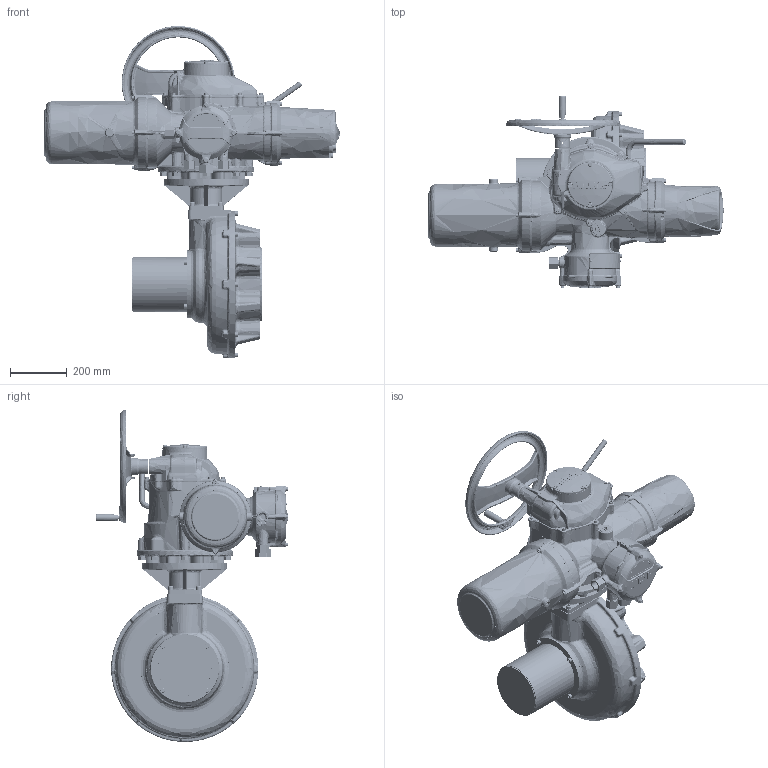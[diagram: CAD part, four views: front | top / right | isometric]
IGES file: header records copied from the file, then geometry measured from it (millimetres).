
Start section: C
Global section: file name: II5-91-SHWIB13STD-1.igs; native system: By Siemens PLM Incorporated; preprocessor: XPlus GENERIC/IGES 18.0.17; author: Author; organization: Title; date: 20160624.102305; units: millimetre
Bounding box: 1041.8 x 680.05 x 1172 mm (x, y, z)
Surface area: 3106163.6 mm2 (no closed solid volume)
Topology: 0 solids, 0 shells, 9296 faces, 50770 edges, 50283 vertices
Faces by surface type: bspline 9296
